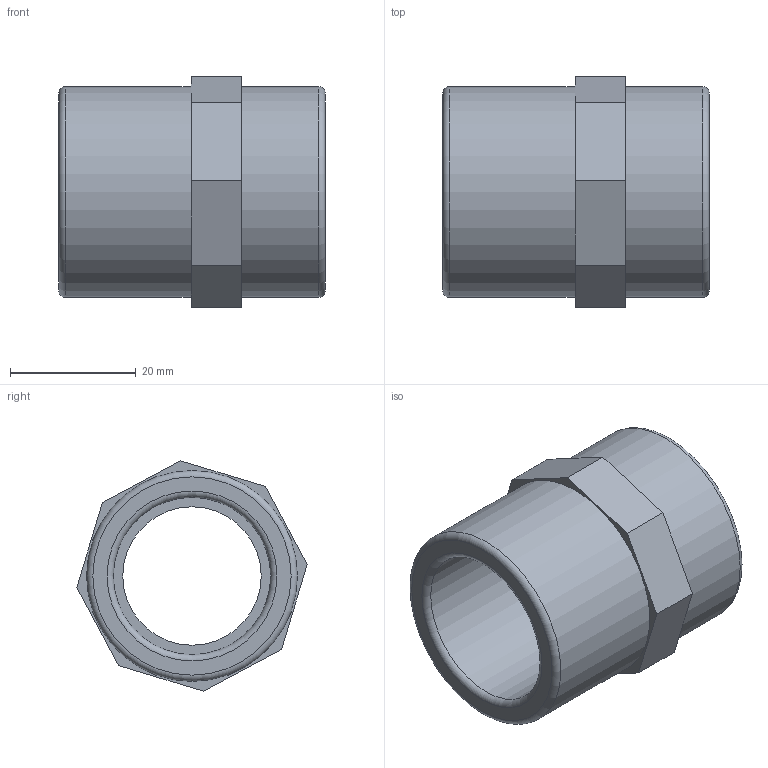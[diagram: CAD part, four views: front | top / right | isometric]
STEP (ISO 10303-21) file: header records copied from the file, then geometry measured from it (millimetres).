
FILE_DESCRIPTION(/* description */ (''),/* implementation_level */ '2;1');
FILE_NAME(/* name */ 'C:\Users\Gabriele\Desktop\disegni 3D\SO12\SO12025C.ipt.stp',/* time_stamp */ '2017-02-10T09:52:33+01:00',/* author */ ('Eugenio'),/* organization */ (''),/* preprocessor_version */ 'ST-DEVELOPER v16.5',/* originating_system */ 'Autodesk Inventor 2017',/* authorisation */ '');
FILE_SCHEMA (('AUTOMOTIVE_DESIGN { 1 0 10303 214 3 1 1 }'));
Length unit declared in the file: millimetre
Products named in the file (1): SO12025C
Bounding box: 42.3 x 36.62 x 36.62 mm (x, y, z)
Volume: 17606.1 mm3; surface area: 12274.6 mm2
Topology: 2 solids, 2 shells, 33 faces, 73 edges, 48 vertices
Faces by surface type: plane 16, cylinder 7, bspline 6, torus 4
Full cylindrical faces by diameter (mm): 22 x1, 25 x1, 26.44 x2, 33.5 x2
Entity records: 4775 total; most frequent: CARTESIAN_POINT 4100, ORIENTED_EDGE 122, DIRECTION 116, EDGE_CURVE 61, EDGE_LOOP 51, VERTEX_POINT 46, AXIS2_PLACEMENT_3D 46, FACE_OUTER_BOUND 33
